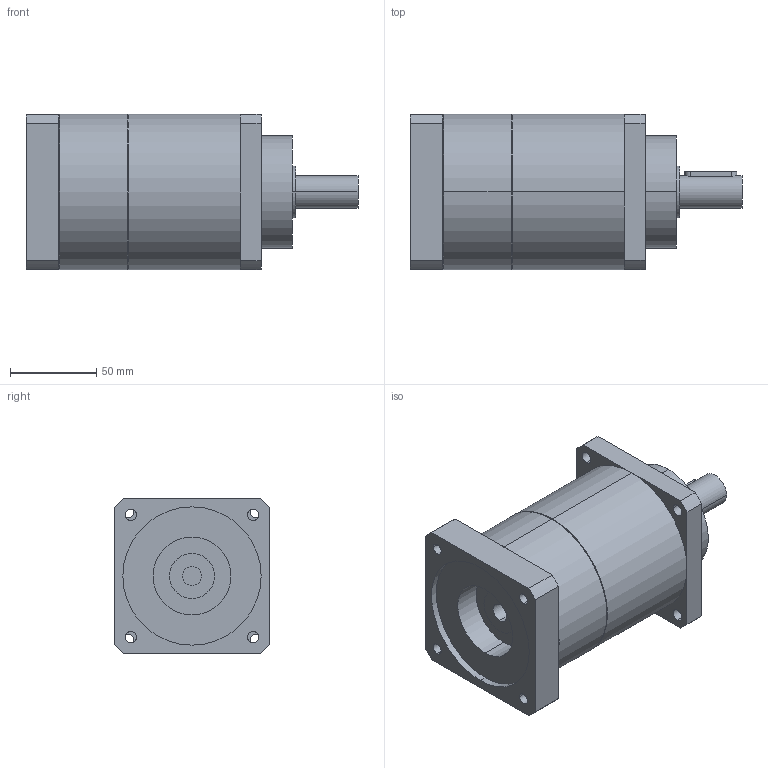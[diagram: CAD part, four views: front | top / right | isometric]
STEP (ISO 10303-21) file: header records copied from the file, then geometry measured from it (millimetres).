
FILE_DESCRIPTION(('CoCreate Modeling STEP Export'),'2;1');
FILE_NAME('GPT90_ig-9-12-16-20-25-28-35-40-50-70-100_19_B5T_11_P34.stp','2015-02-04T11:24:46',(''),(''),'CoCreate Modeling STEP processor for AP214 (Solid Model)','CoCreate Modeling 16.00C 25-Feb-2009 (C) Parametric Technology GmbH','');
FILE_SCHEMA(('AUTOMOTIVE_DESIGN { 1 0 10303 214 1 1 1 1 }'));
Length unit declared in the file: millimetre
Products named in the file (2): GPT90_ig-9-12-16-20-25-28-35-40-50-70-100_19_B5T_11_P34
Assembly tree (1 placements, depth 2):
  GPT90_ig-9-12-16-20-25-28-35-40-50-70-100_19_B5T_11_P34
    GPT90_ig-9-12-16-20-25-28-35-40-50-70-100_19_B5T_11_P34
Bounding box: 192 x 90 x 90 mm (x, y, z)
Volume: 938623.1 mm3; surface area: 73440.2 mm2
Topology: 1 solids, 1 shells, 77 faces, 206 edges, 141 vertices
Faces by surface type: cylinder 46, plane 27, cone 4
Entity records: 2596 total; most frequent: CARTESIAN_POINT 742, ORIENTED_EDGE 412, DIRECTION 324, EDGE_CURVE 206, VERTEX_POINT 141, AXIS2_PLACEMENT_3D 120, EDGE_LOOP 103, VECTOR 84
